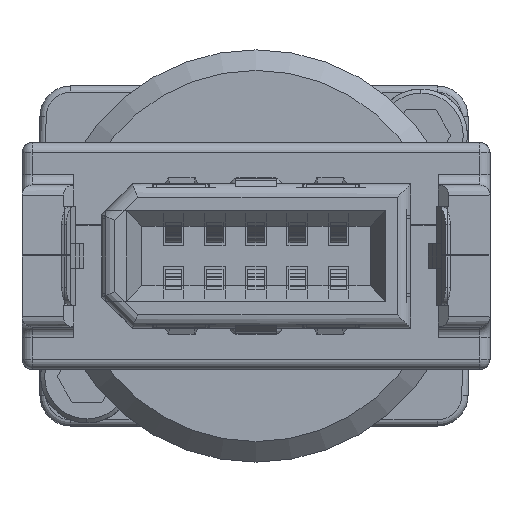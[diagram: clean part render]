
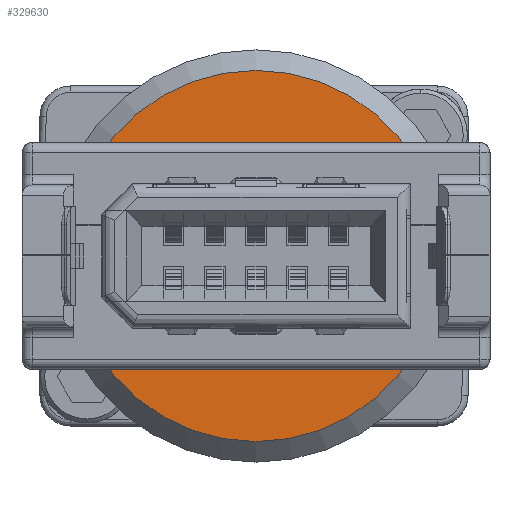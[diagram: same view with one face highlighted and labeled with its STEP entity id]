
A CAD part, front view. The second image highlights one B-rep face of the part: STEP entity #329630.
In plain terms, the highlighted planar face has unit normal (0, -1, 0).
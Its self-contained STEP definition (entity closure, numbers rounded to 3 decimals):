
#329280=CARTESIAN_POINT('',(76.733,143.3,
-5.75));
#329290=DIRECTION('',(0.,1.,-0.));
#329300=DIRECTION('',(-1.,0.,0.));
#329310=AXIS2_PLACEMENT_3D('',#329280,#329290,#329300);
#329320=PLANE('',#329310);
#329330=CARTESIAN_POINT('',(76.733,143.3,
-5.75));
#329340=DIRECTION('',(0.,-1.,0.));
#329350=DIRECTION('',(1.,0.,0.));
#329360=AXIS2_PLACEMENT_3D('',#329330,#329340,#329350);
#329370=CIRCLE('',#329360,3.25);
#329380=CARTESIAN_POINT('',(79.983,143.3,
-5.75));
#329390=VERTEX_POINT('',#329380);
#329400=CARTESIAN_POINT('',(73.483,143.3,
-5.75));
#329410=VERTEX_POINT('',#329400);
#329420=EDGE_CURVE('',#329390,#329410,#329370,.T.);
#329430=ORIENTED_EDGE('',*,*,#329420,.F.);
#329440=EDGE_CURVE('',#329410,#329390,#329370,.T.);
#329450=ORIENTED_EDGE('',*,*,#329440,.F.);
#329460=EDGE_LOOP('',(#329450,#329430));
#329470=FACE_BOUND('',#329460,.T.);
#329480=CARTESIAN_POINT('',(76.733,143.3,
-5.75));
#329490=DIRECTION('',(0.,1.,0.));
#329500=DIRECTION('',(-1.,0.,0.));
#329510=AXIS2_PLACEMENT_3D('',#329480,#329490,#329500);
#329520=CIRCLE('',#329510,9.);
#329530=CARTESIAN_POINT('',(67.733,143.3,
-5.75));
#329540=VERTEX_POINT('',#329530);
#329550=CARTESIAN_POINT('',(85.733,143.3,
-5.75));
#329560=VERTEX_POINT('',#329550);
#329570=EDGE_CURVE('',#329540,#329560,#329520,.T.);
#329580=ORIENTED_EDGE('',*,*,#329570,.F.);
#329590=EDGE_CURVE('',#329560,#329540,#329520,.T.);
#329600=ORIENTED_EDGE('',*,*,#329590,.F.);
#329610=EDGE_LOOP('',(#329600,#329580));
#329620=FACE_OUTER_BOUND('',#329610,.T.);
#329630=ADVANCED_FACE('',(#329470,#329620),#329320,.F.);
